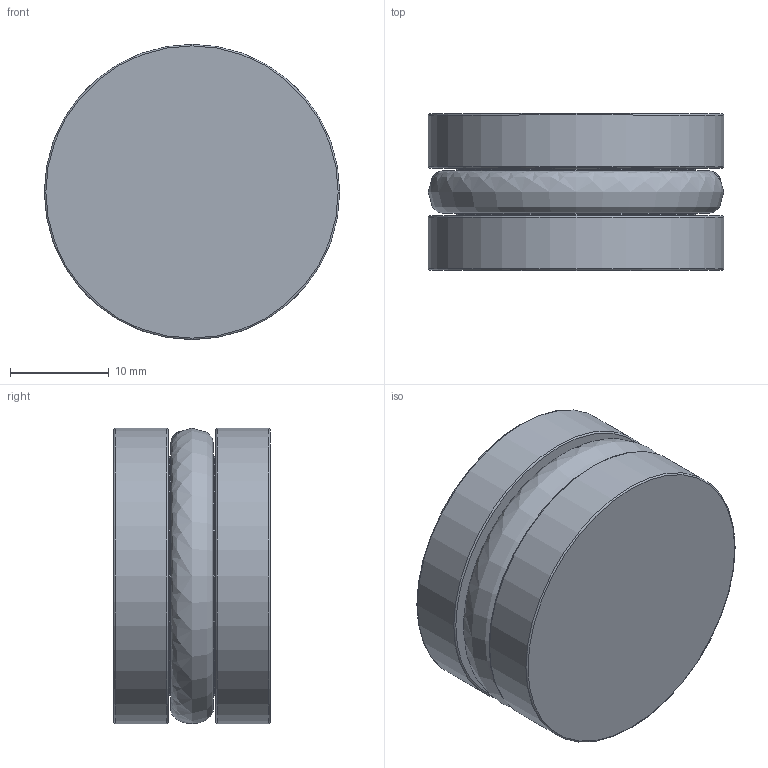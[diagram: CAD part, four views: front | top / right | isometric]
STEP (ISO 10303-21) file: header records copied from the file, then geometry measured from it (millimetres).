
FILE_DESCRIPTION(/* description */ (''),/* implementation_level */ '2;1');
FILE_NAME(/* name */ 'C:/Users/drich/Desktop/OR-1187 v1.step',/* time_stamp */ '2019-12-29T16:46:45-06:00',/* author */ (''),/* organization */ (''),/* preprocessor_version */ 'ST-DEVELOPER v18',/* originating_system */ 'Autodesk Translation Framework v8.12.0.6',/* authorisation */ '');
FILE_SCHEMA (('AUTOMOTIVE_DESIGN { 1 0 10303 214 3 1 1 }'));
Length unit declared in the file: inch
Products named in the file (1): OR-1187
Bounding box: 29.95 x 15.88 x 29.95 mm (x, y, z)
Volume: 10272.7 mm3; surface area: 4495.5 mm2
Topology: 2 solids, 2 shells, 17 faces, 45 edges, 32 vertices
Faces by surface type: torus 6, cylinder 4, plane 4, cone 2, bspline 1
Full cylindrical faces by diameter (mm): 7.976 x1, 24.181 x1, 29.947 x2
Entity records: 681 total; most frequent: CARTESIAN_POINT 174, DIRECTION 116, ORIENTED_EDGE 88, AXIS2_PLACEMENT_3D 55, EDGE_CURVE 44, CIRCLE 37, VERTEX_POINT 32, EDGE_LOOP 20
